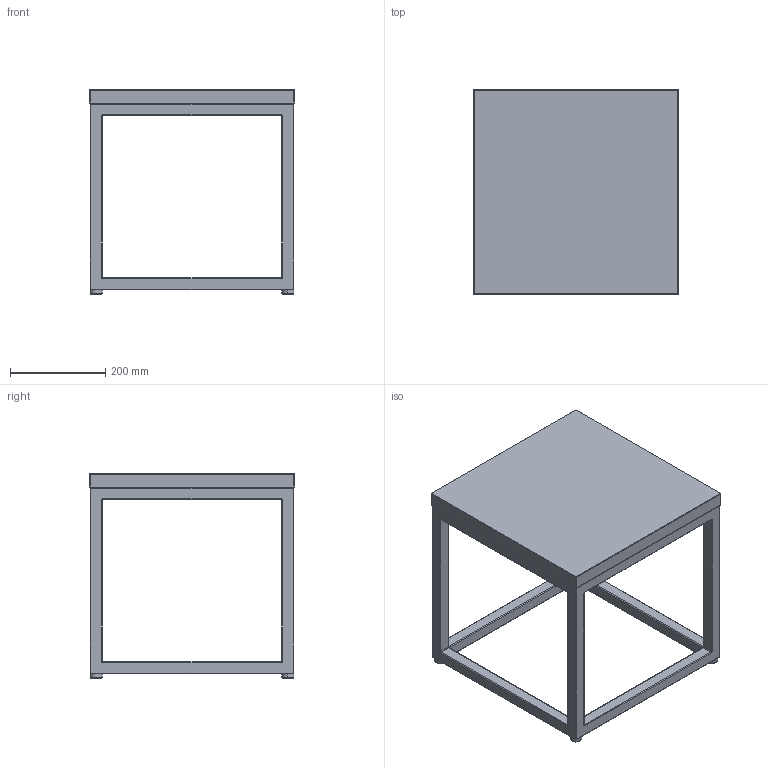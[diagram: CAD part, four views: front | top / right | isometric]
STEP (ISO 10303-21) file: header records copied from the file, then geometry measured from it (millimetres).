
FILE_DESCRIPTION(/* description */ (''),/* implementation_level */ '2;1');
FILE_NAME(/* name */ 'K2Z51G~4',/* time_stamp */ '2020-06-19T17:22:03+09:00',/* author */ (''),/* organization */ (''),/* preprocessor_version */ 'ST-DEVELOPER v15',/* originating_system */ '',/* authorisation */ '');
FILE_SCHEMA (('AUTOMOTIVE_DESIGN'));
Length unit declared in the file: millimetre
Products named in the file (1): Document
Bounding box: 430 x 430 x 430 mm (x, y, z)
Volume: 5564380.1 mm3; surface area: 866281 mm2
Topology: 5 solids, 6 shells, 184 faces, 400 edges, 216 vertices
Faces by surface type: bspline 140, plane 44
Entity records: 5598 total; most frequent: CARTESIAN_POINT 3321, ORIENTED_EDGE 752, EDGE_CURVE 400, VERTEX_POINT 216, EDGE_LOOP 190, ADVANCED_FACE 184, FACE_OUTER_BOUND 184, B_SPLINE_CURVE_WITH_KNOTS 168
